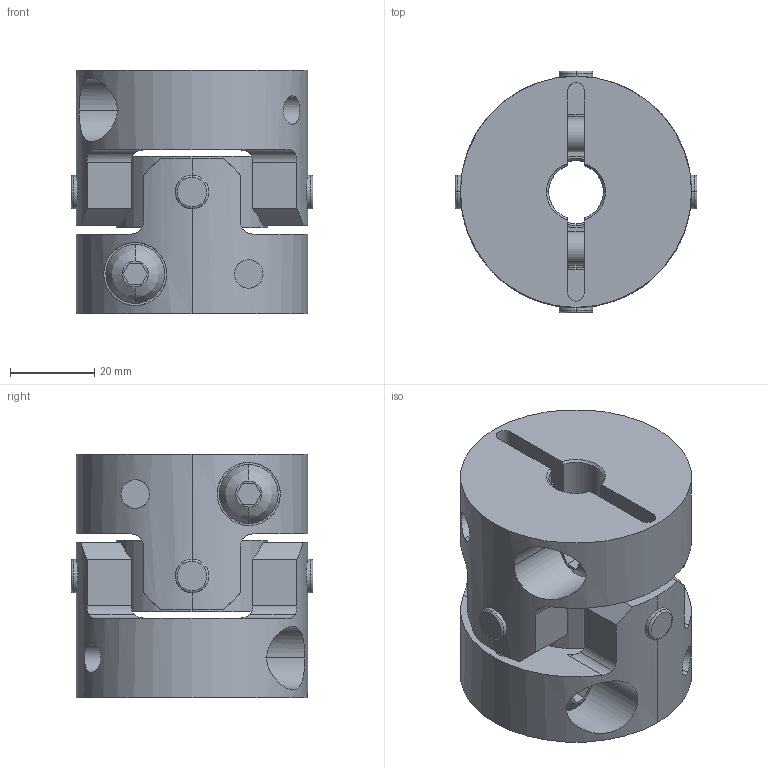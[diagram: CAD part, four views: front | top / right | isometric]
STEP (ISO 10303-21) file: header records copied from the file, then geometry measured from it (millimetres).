
FILE_DESCRIPTION((''),'2;1');
FILE_NAME('UA-55C-13×15.stp','2013-05-22T11:59:21',(''),(''),'AutoCAD STEP 2000i','AutoCAD 2000i',', , ');
FILE_SCHEMA(('CONFIG_CONTROL_DESIGN'));
Length unit declared in the file: millimetre
Products named in the file (6): UA-55C-10×10; 忣兜1; UA-5502-D10-1; BTN-M8; UA-5502-D10; UA55-SEN
Assembly tree (6 placements, depth 3):
  UA-55C-10×10
    忣兜1
    UA-5502-D10-1
      BTN-M8
    UA-5502-D10
      BTN-M8
    UA55-SEN
Bounding box: 57.55 x 57.55 x 58 mm (x, y, z)
Volume: 99592.6 mm3; surface area: 31827.2 mm2
Topology: 1 solids, 1 shells, 206 faces, 554 edges, 364 vertices
Faces by surface type: cylinder 96, plane 78, cone 16, bspline 8, torus 8
Entity records: 8383 total; most frequent: CARTESIAN_POINT 3067, ORIENTED_EDGE 1108, DIRECTION 1064, EDGE_CURVE 554, AXIS2_PLACEMENT_3D 409, VERTEX_POINT 364, VECTOR 246, LINE 246
